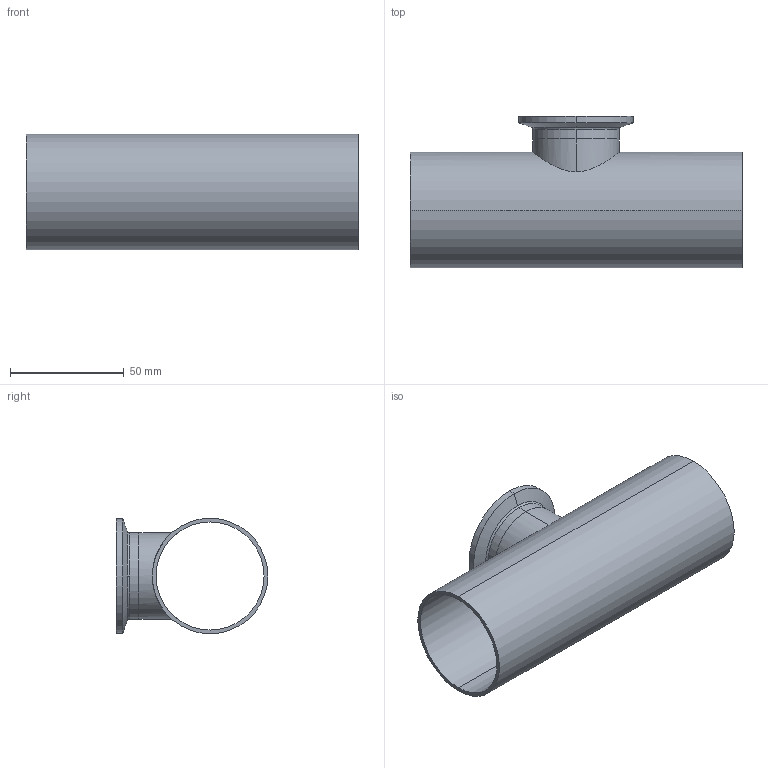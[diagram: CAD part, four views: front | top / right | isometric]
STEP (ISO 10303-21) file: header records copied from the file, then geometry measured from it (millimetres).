
FILE_DESCRIPTION (( 'STEP AP214' ), '1' );
FILE_NAME ('TE7RWWCS6L2.0x1.5-...STEP', '2016-05-23T12:03:12', ( 'eran' ), ( '' ), 'SwSTEP 2.0', 'SolidWorks 2016', '' );
FILE_SCHEMA (( 'AUTOMOTIVE_DESIGN' ));
Length unit declared in the file: millimetre
Products named in the file (1): TE7RWWCS6L2.0x1.5-..
Bounding box: 146 x 66.7 x 50.8 mm (x, y, z)
Volume: 42371.9 mm3; surface area: 50230.8 mm2
Topology: 2 solids, 2 shells, 36 faces, 88 edges, 58 vertices
Faces by surface type: cylinder 14, bspline 10, plane 6, cone 6
Entity records: 1996 total; most frequent: CARTESIAN_POINT 1091, DIRECTION 190, ORIENTED_EDGE 176, EDGE_CURVE 88, AXIS2_PLACEMENT_3D 85, VERTEX_POINT 58, CIRCLE 58, EDGE_LOOP 44
